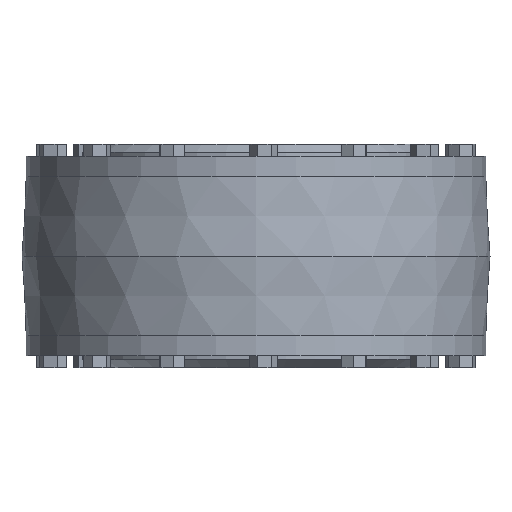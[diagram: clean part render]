
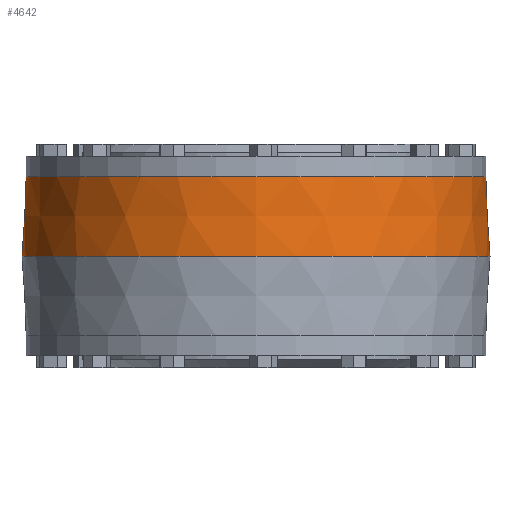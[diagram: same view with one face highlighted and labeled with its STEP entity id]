
A CAD part, front view. The second image highlights one B-rep face of the part: STEP entity #4642.
In plain terms, the highlighted conical face has half-angle 3 degrees and reference radius 182.612 mm.
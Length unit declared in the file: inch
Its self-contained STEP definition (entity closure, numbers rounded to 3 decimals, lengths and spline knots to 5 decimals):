
#66=CONICAL_SURFACE('',#4971,7.18946,0.052);
#184=CIRCLE('',#4969,7.125);
#185=CIRCLE('',#4970,7.125);
#186=CIRCLE('',#4972,7.25392);
#187=CIRCLE('',#4973,7.25392);
#418=FACE_OUTER_BOUND('',#693,.T.);
#693=EDGE_LOOP('',(#3949,#3950,#3951,#3952,#3953,#3954));
#1218=LINE('',#7408,#1743);
#1743=VECTOR('',#6131,7.18946);
#2154=VERTEX_POINT('',#7398);
#2155=VERTEX_POINT('',#7399);
#2156=VERTEX_POINT('',#7404);
#2157=VERTEX_POINT('',#7405);
#2753=EDGE_CURVE('',#2154,#2155,#184,.T.);
#2754=EDGE_CURVE('',#2155,#2154,#185,.T.);
#2756=EDGE_CURVE('',#2156,#2157,#186,.T.);
#2757=EDGE_CURVE('',#2157,#2156,#187,.T.);
#2758=EDGE_CURVE('',#2157,#2155,#1218,.T.);
#3949=ORIENTED_EDGE('',*,*,#2756,.F.);
#3950=ORIENTED_EDGE('',*,*,#2757,.F.);
#3951=ORIENTED_EDGE('',*,*,#2758,.T.);
#3952=ORIENTED_EDGE('',*,*,#2754,.T.);
#3953=ORIENTED_EDGE('',*,*,#2753,.T.);
#3954=ORIENTED_EDGE('',*,*,#2758,.F.);
#4642=ADVANCED_FACE('',(#418),#66,.T.);
#4969=AXIS2_PLACEMENT_3D('',#7400,#6120,#6121);
#4970=AXIS2_PLACEMENT_3D('',#7401,#6122,#6123);
#4971=AXIS2_PLACEMENT_3D('',#7403,#6125,#6126);
#4972=AXIS2_PLACEMENT_3D('',#7406,#6127,#6128);
#4973=AXIS2_PLACEMENT_3D('',#7407,#6129,#6130);
#6120=DIRECTION('center_axis',(0.,0.,-1.));
#6121=DIRECTION('ref_axis',(1.,0.,0.));
#6122=DIRECTION('center_axis',(0.,0.,-1.));
#6123=DIRECTION('ref_axis',(1.,0.,0.));
#6125=DIRECTION('center_axis',(0.,0.,-1.));
#6126=DIRECTION('ref_axis',(0.,1.,0.));
#6127=DIRECTION('center_axis',(0.,0.,-1.));
#6128=DIRECTION('ref_axis',(1.,0.,0.));
#6129=DIRECTION('center_axis',(0.,0.,-1.));
#6130=DIRECTION('ref_axis',(1.,0.,0.));
#6131=DIRECTION('',(0.,0.052,0.999));
#7398=CARTESIAN_POINT('',(0.,7.125,2.46));
#7399=CARTESIAN_POINT('',(0.,-7.125,2.46));
#7400=CARTESIAN_POINT('Origin',(0.,0.,2.46));
#7401=CARTESIAN_POINT('Origin',(0.,0.,2.46));
#7403=CARTESIAN_POINT('Origin',(0.,0.,1.23));
#7404=CARTESIAN_POINT('',(0.,7.25392,0.));
#7405=CARTESIAN_POINT('',(0.,-7.25392,0.));
#7406=CARTESIAN_POINT('Origin',(0.,0.,0.));
#7407=CARTESIAN_POINT('Origin',(0.,0.,0.));
#7408=CARTESIAN_POINT('',(0.,-7.18946,1.23));
